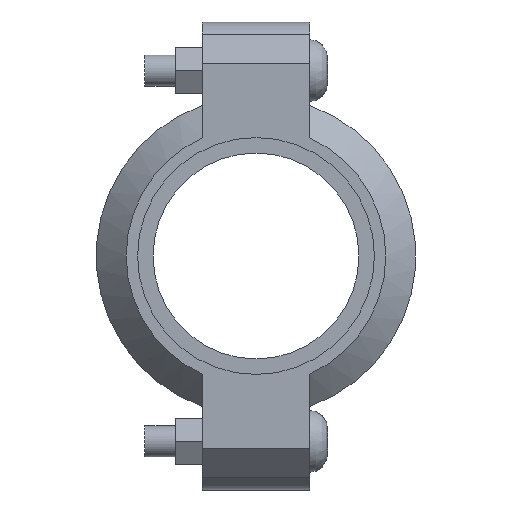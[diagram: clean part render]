
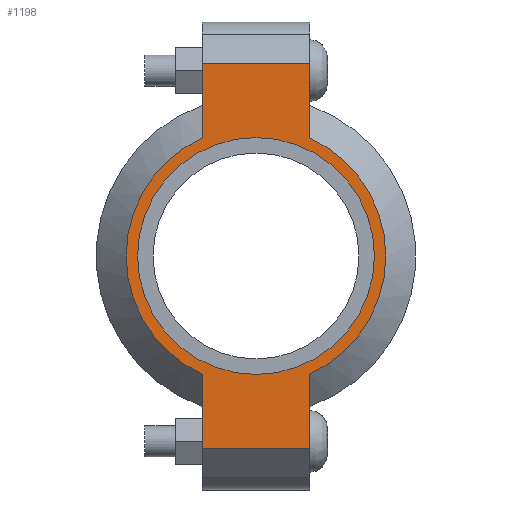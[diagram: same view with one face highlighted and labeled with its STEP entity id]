
A CAD part, left-side view. The second image highlights one B-rep face of the part: STEP entity #1198.
In plain terms, the highlighted planar face has unit normal (-1, 0, 0) as drawn and (0, 0, 1) by its records, which use the part's own axes.
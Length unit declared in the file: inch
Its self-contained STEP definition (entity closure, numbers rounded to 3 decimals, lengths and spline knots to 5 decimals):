
#95=LINE('',#2023,#180);
#103=LINE('',#2059,#188);
#110=LINE('',#2080,#195);
#119=LINE('',#2112,#204);
#120=LINE('',#2116,#205);
#121=LINE('',#2118,#206);
#180=VECTOR('',#1628,0.3937);
#188=VECTOR('',#1644,0.3937);
#195=VECTOR('',#1663,0.3937);
#204=VECTOR('',#1688,0.3937);
#205=VECTOR('',#1693,0.3937);
#206=VECTOR('',#1694,0.3937);
#246=FACE_BOUND('',#376,.T.);
#298=FACE_OUTER_BOUND('',#375,.T.);
#375=EDGE_LOOP('',(#964,#965,#966,#967,#968,#969,#970,#971));
#376=EDGE_LOOP('',(#972));
#449=CIRCLE('',#1386,1.575);
#450=CIRCLE('',#1387,1.575);
#451=CIRCLE('',#1388,1.4375);
#530=VERTEX_POINT('',#2020);
#531=VERTEX_POINT('',#2022);
#542=VERTEX_POINT('',#2054);
#543=VERTEX_POINT('',#2058);
#550=VERTEX_POINT('',#2077);
#551=VERTEX_POINT('',#2079);
#561=VERTEX_POINT('',#2115);
#562=VERTEX_POINT('',#2117);
#563=VERTEX_POINT('',#2120);
#664=EDGE_CURVE('',#531,#530,#95,.T.);
#678=EDGE_CURVE('',#543,#542,#103,.T.);
#688=EDGE_CURVE('',#551,#550,#110,.T.);
#703=EDGE_CURVE('',#543,#530,#119,.T.);
#704=EDGE_CURVE('',#542,#551,#449,.T.);
#705=EDGE_CURVE('',#561,#550,#120,.T.);
#706=EDGE_CURVE('',#561,#562,#121,.T.);
#707=EDGE_CURVE('',#562,#531,#450,.T.);
#708=EDGE_CURVE('',#563,#563,#451,.T.);
#964=ORIENTED_EDGE('',*,*,#703,.F.);
#965=ORIENTED_EDGE('',*,*,#678,.T.);
#966=ORIENTED_EDGE('',*,*,#704,.T.);
#967=ORIENTED_EDGE('',*,*,#688,.T.);
#968=ORIENTED_EDGE('',*,*,#705,.F.);
#969=ORIENTED_EDGE('',*,*,#706,.T.);
#970=ORIENTED_EDGE('',*,*,#707,.T.);
#971=ORIENTED_EDGE('',*,*,#664,.T.);
#972=ORIENTED_EDGE('',*,*,#708,.T.);
#1077=PLANE('',#1385);
#1198=ADVANCED_FACE('',(#298,#246),#1077,.T.);
#1385=AXIS2_PLACEMENT_3D('',#2113,#1689,#1690);
#1386=AXIS2_PLACEMENT_3D('',#2114,#1691,#1692);
#1387=AXIS2_PLACEMENT_3D('',#2119,#1695,#1696);
#1388=AXIS2_PLACEMENT_3D('',#2121,#1697,#1698);
#1628=DIRECTION('',(-1.,0.,0.));
#1644=DIRECTION('',(1.,0.,0.));
#1663=DIRECTION('',(1.,0.,0.));
#1688=DIRECTION('',(0.,1.,0.));
#1689=DIRECTION('center_axis',(0.,0.,1.));
#1690=DIRECTION('ref_axis',(1.,0.,0.));
#1691=DIRECTION('center_axis',(0.,0.,1.));
#1692=DIRECTION('ref_axis',(-1.,0.,0.));
#1693=DIRECTION('',(0.,-1.,0.));
#1694=DIRECTION('',(-1.,0.,0.));
#1695=DIRECTION('center_axis',(0.,0.,1.));
#1696=DIRECTION('ref_axis',(-1.,0.,0.));
#1697=DIRECTION('center_axis',(0.,0.,-1.));
#1698=DIRECTION('ref_axis',(-1.,0.,0.));
#2020=CARTESIAN_POINT('',(-2.34,0.65,0.94));
#2022=CARTESIAN_POINT('',(-1.43462,0.65,0.94));
#2023=CARTESIAN_POINT('',(-2.84,0.65,0.94));
#2054=CARTESIAN_POINT('',(-1.43462,-0.65,0.94));
#2058=CARTESIAN_POINT('',(-2.34,-0.65,0.94));
#2059=CARTESIAN_POINT('',(2.84,-0.65,0.94));
#2077=CARTESIAN_POINT('',(2.34,-0.65,0.94));
#2079=CARTESIAN_POINT('',(1.43462,-0.65,0.94));
#2080=CARTESIAN_POINT('',(2.84,-0.65,0.94));
#2112=CARTESIAN_POINT('',(-2.34,0.325,0.94));
#2113=CARTESIAN_POINT('Origin',(0.,0.,
0.94));
#2114=CARTESIAN_POINT('Origin',(0.,0.,0.94));
#2115=CARTESIAN_POINT('',(2.34,0.65,0.94));
#2116=CARTESIAN_POINT('',(2.34,-0.325,0.94));
#2117=CARTESIAN_POINT('',(1.43462,0.65,0.94));
#2118=CARTESIAN_POINT('',(-2.84,0.65,0.94));
#2119=CARTESIAN_POINT('Origin',(0.,0.,0.94));
#2120=CARTESIAN_POINT('',(1.4375,0.,0.94));
#2121=CARTESIAN_POINT('Origin',(0.,0.,0.94));
